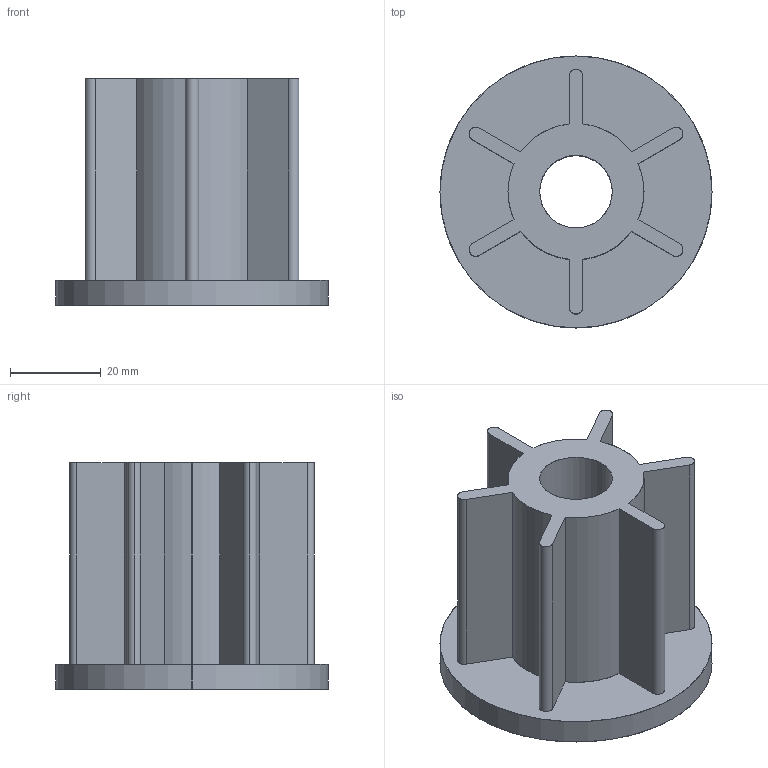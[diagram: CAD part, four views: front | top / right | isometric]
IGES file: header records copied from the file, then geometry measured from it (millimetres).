
Start section: SolidWorks IGES file using analytic representation for surfaces
Global section: file name: C:\Documents and Settings\URETIM3\Desktop\yeni katalog tolgay düzenli\A kataloðu\235 yuvarlak profil klavuzlari\235 602 516.IGS; native system: SolidWorks 2006 by SolidWorks Corporation; preprocessor: SolidWorks 2006 by SolidWorks Corporation; author: URETIM3; date: 060912.094320; units: millimetre
Bounding box: 60 x 60 x 50 mm (x, y, z)
Surface area: 19100.3 mm2 (no closed solid volume)
Topology: 0 solids, 0 shells, 38 faces, 636 edges, 636 vertices
Faces by surface type: revolution 23, bspline 15
